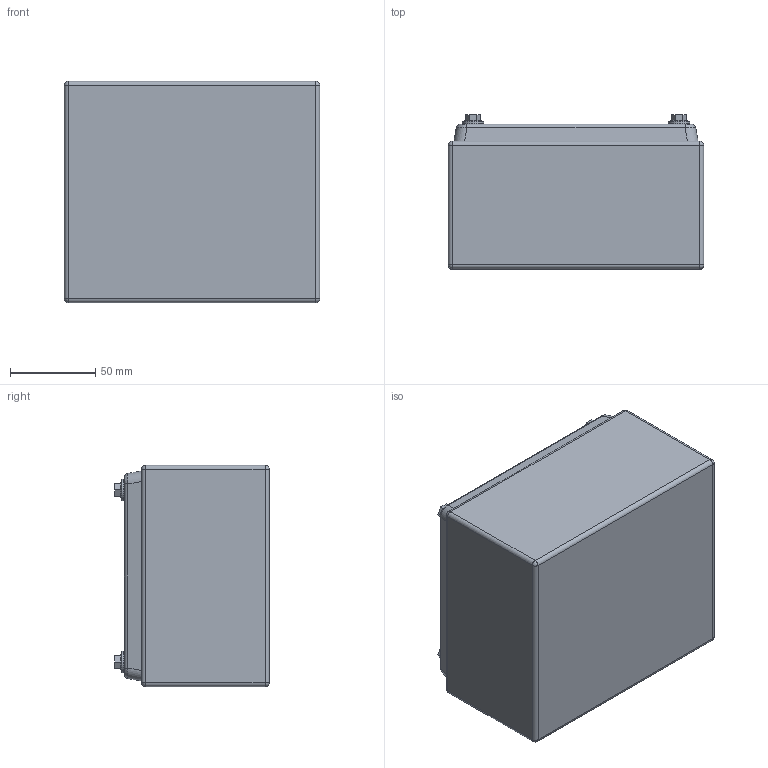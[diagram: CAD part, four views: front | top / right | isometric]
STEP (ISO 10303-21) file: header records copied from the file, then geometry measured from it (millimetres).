
FILE_DESCRIPTION (( 'STEP AP203' ), '1' );
FILE_NAME ('PE04-304A.STEP', '2021-02-23T14:36:57', ( '' ), ( '' ), 'SwSTEP 2.0', 'SolidWorks 2020', '' );
FILE_SCHEMA (( 'CONFIG_CONTROL_DESIGN' ));
Length unit declared in the file: millimetre
Products named in the file (1): PE04-304A
Bounding box: 150 x 90.6 x 130 mm (x, y, z)
Volume: 158482.9 mm3; surface area: 214843.6 mm2
Topology: 20 solids, 20 shells, 526 faces, 1273 edges, 812 vertices
Faces by surface type: plane 281, cylinder 193, cone 20, sphere 16, bspline 16
Entity records: 16730 total; most frequent: CARTESIAN_POINT 4296, DIRECTION 2573, ORIENTED_EDGE 2514, EDGE_CURVE 1257, AXIS2_PLACEMENT_3D 897, VERTEX_POINT 812, VECTOR 779, LINE 779
